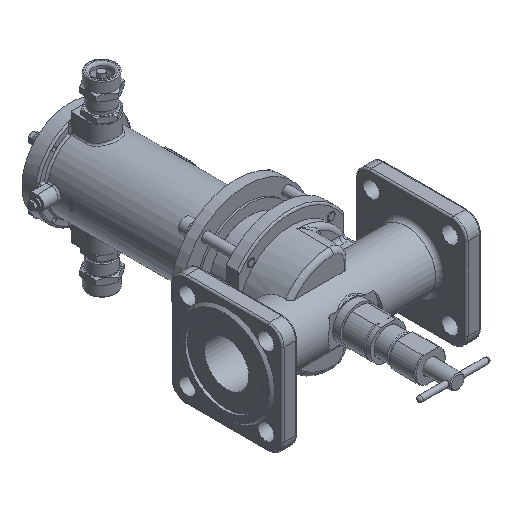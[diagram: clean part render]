
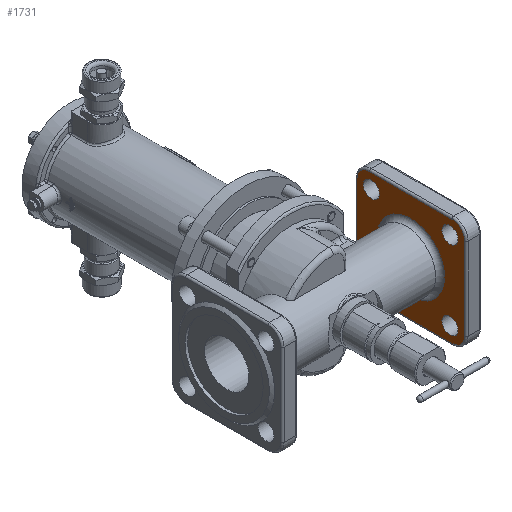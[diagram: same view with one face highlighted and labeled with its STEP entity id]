
A CAD part, isometric view. The second image highlights one B-rep face of the part: STEP entity #1731.
In plain terms, the highlighted planar face has unit normal (-1, 0, 0).
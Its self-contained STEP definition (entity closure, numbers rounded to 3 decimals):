
#1731=ADVANCED_FACE('',(#18509,#18511,#18513,#18515,#18517,#18519),#18521,.T.);
#18509=FACE_BOUND('',#18510,.T.);
#18510=EDGE_LOOP('',(#29512));
#18511=FACE_BOUND('',#18512,.T.);
#18512=EDGE_LOOP('',(#29513));
#18513=FACE_BOUND('',#18514,.T.);
#18514=EDGE_LOOP('',(#29514));
#18515=FACE_BOUND('',#18516,.T.);
#18516=EDGE_LOOP('',(#29515));
#18517=FACE_BOUND('',#18518,.T.);
#18518=EDGE_LOOP('',(#29516));
#18519=FACE_OUTER_BOUND('',#18520,.T.);
#18520=EDGE_LOOP('',(#29517,#29518,#29519,#29520,#29521,#29522,#29523,#29524));
#18521=PLANE('',#18522);
#18522=AXIS2_PLACEMENT_3D('',#18523,#18524,#18525);
#18523=CARTESIAN_POINT('',(95.,0.,0.));
#18524=DIRECTION('',(-1.,0.,0.));
#18525=DIRECTION('',(0.,1.,0.));
#29512=ORIENTED_EDGE('',*,*,#36491,.F.);
#29513=ORIENTED_EDGE('',*,*,#36588,.T.);
#29514=ORIENTED_EDGE('',*,*,#36589,.T.);
#29515=ORIENTED_EDGE('',*,*,#36590,.T.);
#29516=ORIENTED_EDGE('',*,*,#36591,.T.);
#29517=ORIENTED_EDGE('',*,*,#36592,.T.);
#29518=ORIENTED_EDGE('',*,*,#36593,.T.);
#29519=ORIENTED_EDGE('',*,*,#36594,.T.);
#29520=ORIENTED_EDGE('',*,*,#36595,.T.);
#29521=ORIENTED_EDGE('',*,*,#36596,.T.);
#29522=ORIENTED_EDGE('',*,*,#36597,.T.);
#29523=ORIENTED_EDGE('',*,*,#36598,.T.);
#29524=ORIENTED_EDGE('',*,*,#36599,.T.);
#36491=EDGE_CURVE('',#44318,#44318,#44320,.T.);
#36588=EDGE_CURVE('',#44487,#44487,#44488,.T.);
#36589=EDGE_CURVE('',#44489,#44489,#44490,.T.);
#36590=EDGE_CURVE('',#44491,#44491,#44492,.T.);
#36591=EDGE_CURVE('',#44493,#44493,#44494,.T.);
#36592=EDGE_CURVE('',#44495,#44496,#44497,.T.);
#36593=EDGE_CURVE('',#44496,#44498,#44499,.F.);
#36594=EDGE_CURVE('',#44498,#44500,#44501,.T.);
#36595=EDGE_CURVE('',#44500,#44502,#44503,.F.);
#36596=EDGE_CURVE('',#44502,#44504,#44505,.T.);
#36597=EDGE_CURVE('',#44504,#44506,#44507,.F.);
#36598=EDGE_CURVE('',#44506,#44508,#44509,.T.);
#36599=EDGE_CURVE('',#44508,#44495,#44510,.F.);
#44318=VERTEX_POINT('',#70197);
#44320=CIRCLE('',#70202,38.);
#44487=VERTEX_POINT('',#70936);
#44488=CIRCLE('',#70937,9.);
#44489=VERTEX_POINT('',#70941);
#44490=CIRCLE('',#70942,9.);
#44491=VERTEX_POINT('',#70946);
#44492=CIRCLE('',#70947,9.);
#44493=VERTEX_POINT('',#70951);
#44494=CIRCLE('',#70952,9.);
#44495=VERTEX_POINT('',#70956);
#44496=VERTEX_POINT('',#70957);
#44497=LINE('',#70958,#70959);
#44498=VERTEX_POINT('',#70961);
#44499=CIRCLE('',#70962,14.109);
#44500=VERTEX_POINT('',#70966);
#44501=LINE('',#70967,#70968);
#44502=VERTEX_POINT('',#70970);
#44503=CIRCLE('',#70971,14.109);
#44504=VERTEX_POINT('',#70975);
#44505=LINE('',#70976,#70977);
#44506=VERTEX_POINT('',#70979);
#44507=CIRCLE('',#70980,14.109);
#44508=VERTEX_POINT('',#70984);
#44509=LINE('',#70985,#70986);
#44510=CIRCLE('',#70988,14.109);
#70197=CARTESIAN_POINT('',(95.,38.,0.));
#70202=AXIS2_PLACEMENT_3D('',#70203,#70204,#70205);
#70203=CARTESIAN_POINT('',(95.,0.,0.));
#70204=DIRECTION('',(-1.,0.,0.));
#70205=DIRECTION('',(0.,1.,0.));
#70936=CARTESIAN_POINT('',(95.,44.194,-53.194));
#70937=AXIS2_PLACEMENT_3D('',#70938,#70939,#70940);
#70938=CARTESIAN_POINT('',(95.,44.194,-44.194));
#70939=DIRECTION('',(1.,0.,0.));
#70940=DIRECTION('',(0.,0.,-1.));
#70941=CARTESIAN_POINT('',(95.,-44.194,-53.194));
#70942=AXIS2_PLACEMENT_3D('',#70943,#70944,#70945);
#70943=CARTESIAN_POINT('',(95.,-44.194,-44.194));
#70944=DIRECTION('',(1.,0.,0.));
#70945=DIRECTION('',(0.,0.,-1.));
#70946=CARTESIAN_POINT('',(95.,44.194,53.194));
#70947=AXIS2_PLACEMENT_3D('',#70948,#70949,#70950);
#70948=CARTESIAN_POINT('',(95.,44.194,44.194));
#70949=DIRECTION('',(1.,0.,0.));
#70950=DIRECTION('',(0.,0.,1.));
#70951=CARTESIAN_POINT('',(95.,-44.194,53.194));
#70952=AXIS2_PLACEMENT_3D('',#70953,#70954,#70955);
#70953=CARTESIAN_POINT('',(95.,-44.194,44.194));
#70954=DIRECTION('',(1.,0.,0.));
#70955=DIRECTION('',(0.,0.,1.));
#70956=CARTESIAN_POINT('',(95.,-46.391,60.5));
#70957=CARTESIAN_POINT('',(95.,46.391,60.5));
#70958=CARTESIAN_POINT('',(95.,-46.391,60.5));
#70959=VECTOR('',#70960,1.);
#70960=DIRECTION('',(0.,1.,0.));
#70961=CARTESIAN_POINT('',(95.,60.5,46.391));
#70962=AXIS2_PLACEMENT_3D('',#70963,#70964,#70965);
#70963=CARTESIAN_POINT('',(95.,46.391,46.391));
#70964=DIRECTION('',(1.,0.,0.));
#70965=DIRECTION('',(0.,1.,0.));
#70966=CARTESIAN_POINT('',(95.,60.5,-46.391));
#70967=CARTESIAN_POINT('',(95.,60.5,46.391));
#70968=VECTOR('',#70969,1.);
#70969=DIRECTION('',(0.,0.,-1.));
#70970=CARTESIAN_POINT('',(95.,46.391,-60.5));
#70971=AXIS2_PLACEMENT_3D('',#70972,#70973,#70974);
#70972=CARTESIAN_POINT('',(95.,46.391,-46.391));
#70973=DIRECTION('',(1.,0.,0.));
#70974=DIRECTION('',(0.,0.,-1.));
#70975=CARTESIAN_POINT('',(95.,-46.391,-60.5));
#70976=CARTESIAN_POINT('',(95.,46.391,-60.5));
#70977=VECTOR('',#70978,1.);
#70978=DIRECTION('',(0.,-1.,0.));
#70979=CARTESIAN_POINT('',(95.,-60.5,-46.391));
#70980=AXIS2_PLACEMENT_3D('',#70981,#70982,#70983);
#70981=CARTESIAN_POINT('',(95.,-46.391,-46.391));
#70982=DIRECTION('',(1.,0.,0.));
#70983=DIRECTION('',(0.,-1.,0.));
#70984=CARTESIAN_POINT('',(95.,-60.5,46.391));
#70985=CARTESIAN_POINT('',(95.,-60.5,-46.391));
#70986=VECTOR('',#70987,1.);
#70987=DIRECTION('',(0.,0.,1.));
#70988=AXIS2_PLACEMENT_3D('',#70989,#70990,#70991);
#70989=CARTESIAN_POINT('',(95.,-46.391,46.391));
#70990=DIRECTION('',(1.,0.,0.));
#70991=DIRECTION('',(0.,0.,1.));
